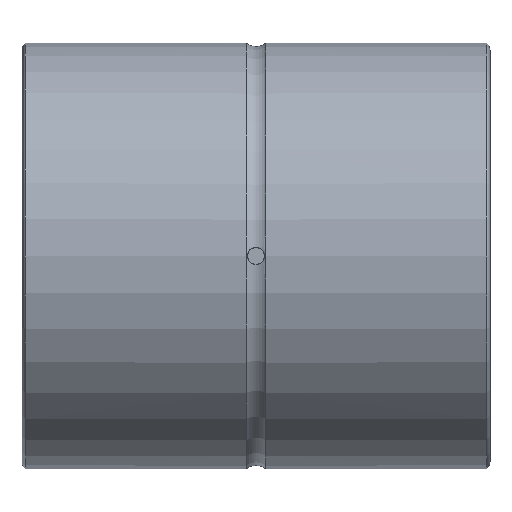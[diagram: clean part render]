
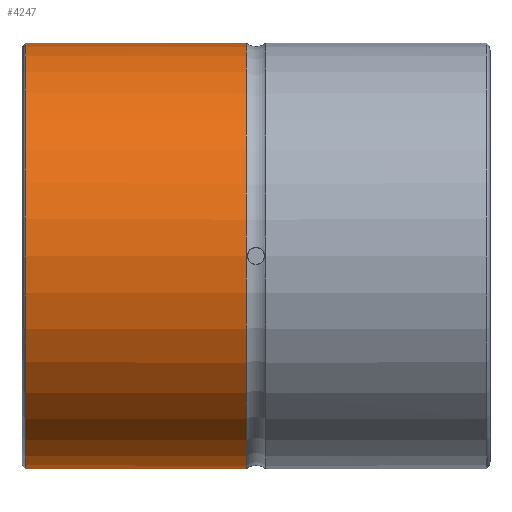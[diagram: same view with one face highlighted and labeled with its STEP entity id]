
A CAD part, front view. The second image highlights one B-rep face of the part: STEP entity #4247.
In plain terms, the highlighted cylindrical face has radius 50 mm (diameter 100 mm), a full revolution.
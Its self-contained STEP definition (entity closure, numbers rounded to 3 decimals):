
#23=B_SPLINE_CURVE_WITH_KNOTS('',3,(#6993,#6994,#6995,#6996,#6997,#6998,
#6999,#7000,#7001,#7002,#7003),.UNSPECIFIED.,.F.,.F.,(4,1,1,1,1,1,1,1,4),
(0.,0.004,0.007,0.011,0.014,
0.018,0.021,0.025,0.028),
 .UNSPECIFIED.);
#370=LINE('',#7006,#764);
#371=LINE('',#7007,#765);
#764=VECTOR('',#5609,1000.);
#765=VECTOR('',#5610,1000.);
#1504=ORIENTED_EDGE('',*,*,#2577,.T.);
#1505=ORIENTED_EDGE('',*,*,#2578,.T.);
#1506=ORIENTED_EDGE('',*,*,#2570,.F.);
#1507=ORIENTED_EDGE('',*,*,#2579,.T.);
#1508=ORIENTED_EDGE('',*,*,#2576,.T.);
#2570=EDGE_CURVE('',#3104,#3105,#3427,.T.);
#2576=EDGE_CURVE('',#3110,#3110,#3429,.T.);
#2577=EDGE_CURVE('',#3111,#3112,#23,.T.);
#2578=EDGE_CURVE('',#3112,#3105,#370,.T.);
#2579=EDGE_CURVE('',#3104,#3111,#371,.F.);
#3104=VERTEX_POINT('',#6942);
#3105=VERTEX_POINT('',#6943);
#3110=VERTEX_POINT('',#6991);
#3111=VERTEX_POINT('',#7004);
#3112=VERTEX_POINT('',#7005);
#3427=CIRCLE('',#4676,50.);
#3429=CIRCLE('',#4679,50.);
#3597=EDGE_LOOP('',(#1504,#1505,#1506,#1507));
#3598=EDGE_LOOP('',(#1508));
#3877=FACE_BOUND('',#3597,.T.);
#3878=FACE_BOUND('',#3598,.T.);
#4110=CYLINDRICAL_SURFACE('',#4680,50.);
#4247=ADVANCED_FACE('',(#3877,#3878),#4110,.T.);
#4676=AXIS2_PLACEMENT_3D('',#6941,#5599,#5600);
#4679=AXIS2_PLACEMENT_3D('',#6990,#5605,#5606);
#4680=AXIS2_PLACEMENT_3D('',#6992,#5607,#5608);
#5599=DIRECTION('',(1.,0.,0.));
#5600=DIRECTION('',(0.,0.,-1.));
#5605=DIRECTION('',(1.,0.,0.));
#5606=DIRECTION('',(0.,0.,-1.));
#5607=DIRECTION('',(1.,0.,0.));
#5608=DIRECTION('',(0.,0.,-1.));
#5609=DIRECTION('',(1.,0.,0.));
#5610=DIRECTION('',(1.,0.,0.));
#6941=CARTESIAN_POINT('',(-2.33,0.,0.));
#6942=CARTESIAN_POINT('',(-2.33,49.183,9.));
#6943=CARTESIAN_POINT('',(-2.33,49.183,-9.));
#6990=CARTESIAN_POINT('',(-54.2,0.,0.));
#6991=CARTESIAN_POINT('',(-54.2,0.,-50.));
#6992=CARTESIAN_POINT('',(55.,0.,0.));
#6993=CARTESIAN_POINT('',(-25.,49.183,9.));
#6994=CARTESIAN_POINT('',(-26.192,49.183,9.));
#6995=CARTESIAN_POINT('',(-28.538,49.273,8.528));
#6996=CARTESIAN_POINT('',(-31.53,49.594,6.528));
#6997=CARTESIAN_POINT('',(-33.526,49.912,3.543));
#6998=CARTESIAN_POINT('',(-34.235,50.044,0.008));
#6999=CARTESIAN_POINT('',(-33.532,49.913,-3.532));
#7000=CARTESIAN_POINT('',(-31.533,49.594,-6.526));
#7001=CARTESIAN_POINT('',(-28.542,49.273,-8.526));
#7002=CARTESIAN_POINT('',(-26.192,49.183,-9.));
#7003=CARTESIAN_POINT('',(-25.,49.183,-9.));
#7004=CARTESIAN_POINT('',(-25.,49.183,9.));
#7005=CARTESIAN_POINT('',(-25.,49.183,-9.));
#7006=CARTESIAN_POINT('',(55.,49.183,-9.));
#7007=CARTESIAN_POINT('',(55.,49.183,9.));
